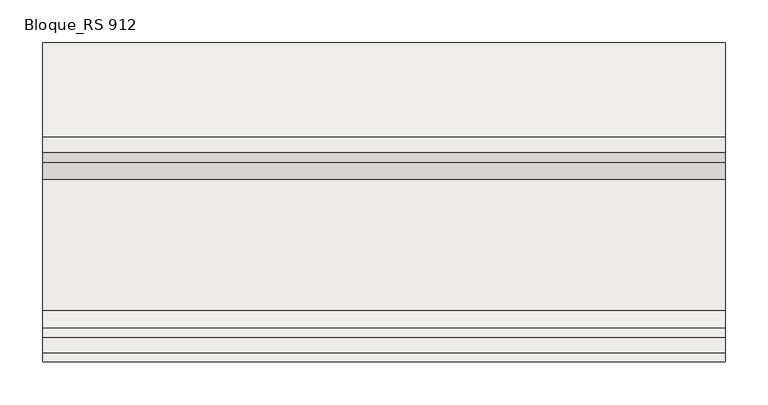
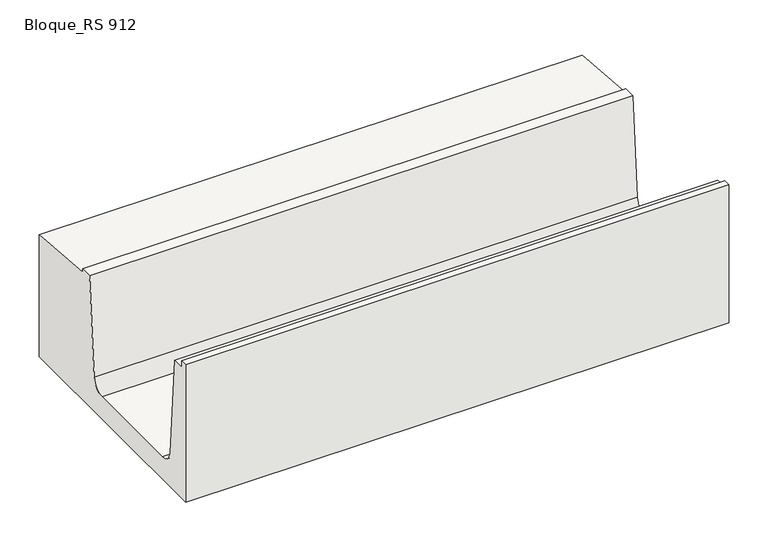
"""IFC4 building model written with IfcOpenShell, lengths in millimetres: slab geometry, ROSA GRES_RS 912 : Bloque_RS 912."""

from ifc_helpers import new_model, si_unit, point, frame, frame_2d, origin, place, context, project, spatial, polyline, circle_curve, trimmed, segment, composite_curve, outline, extrude, source, transform, mapped, element, save


def bloque_rs_912_abb1421b(model_context):
    return source(origin(), model_context, "Body", "SweptSolid", [
        extrude(outline(composite_curve([segment(polyline([(-252.836227, 1.7539108), (-626.836227, 1.7539108), (-626.836227, 216.3460936), (-616.836227, 216.3460936), (-616.836227, 206.3460936), (-598.836227, 206.3460936), (-587.1239808, 55.2086635)]), True, "CONTINUOUS"), segment(trimmed(circle_curve(frame_2d((-567.1837649, 56.7539108)), 20.0), [point((-587.1239808, 55.2086635))], [point((-567.1837649, 36.7539108))], True, "CARTESIAN"), True, "CONTINUOUS"), segment(polyline([(-567.1837649, 36.7539108), (-413.4886891, 36.7539108)]), True, "CONTINUOUS"), segment(trimmed(circle_curve(frame_2d((-413.4886891, 56.7539108)), 20.0), [point((-413.4886891, 36.7539108))], [point((-393.5484732, 55.2086635))], True, "CARTESIAN"), True, "CONTINUOUS"), segment(polyline([(-393.5484732, 55.2086635), (-381.836227, 206.3460936), (-363.836227, 206.3460936), (-363.836227, 200.5030704), (-252.836227, 191.4681867), (-252.836227, 1.7539108)]), True, "CONTINUOUS")], self_intersect=False)), frame((0.0, 0.0, 0.0), z_axis=(1.0, 0.0, 0.0), x_axis=(0.0, 1.0, 0.0)), (0.0, 0.0, 1.0), 800.0),
    ])


if __name__ == "__main__":
    model = new_model("IFC4")
    model_context = context("Model", 3, world=origin())
    ifc_project = project(units=[si_unit("LENGTHUNIT", "METRE", prefix="MILLI")], contexts=[model_context])
    site = spatial("IfcSite", under=ifc_project)
    building = spatial("IfcBuilding", under=site)
    placement = place(None, origin())
    bloque_rs_912_shape = bloque_rs_912_abb1421b(model_context)
    element("IfcSlab", 1, ObjectType="ROSA GRES_RS 912 : Bloque_RS 912", at=placement, inside=building, context=model_context, shape_type="MappedRepresentation", body=[
        mapped(bloque_rs_912_shape, transform((0.0, 0.0, 0.0), x_axis=(1.0, 0.0, 0.0), y_axis=(0.0, 1.0, 0.0), z_axis=(0.0, 0.0, 1.0))),
    ])
    save(model, "model.ifc")
